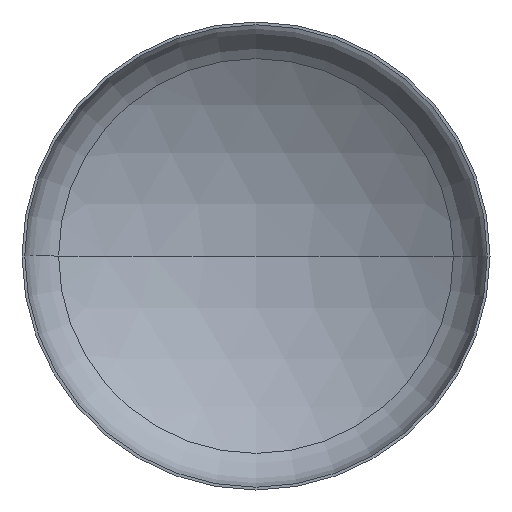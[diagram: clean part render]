
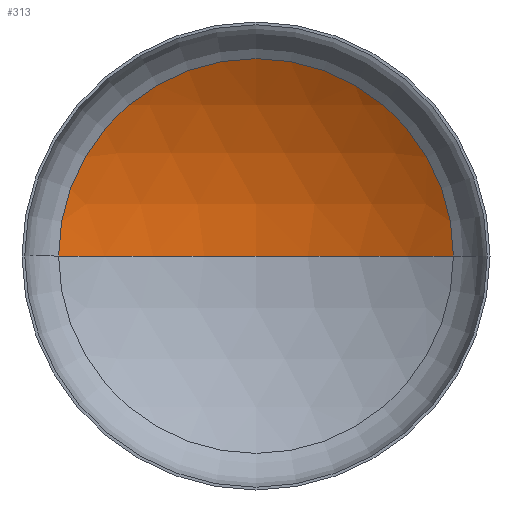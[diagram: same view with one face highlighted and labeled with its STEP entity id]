
A CAD part, front view. The second image highlights one B-rep face of the part: STEP entity #313.
In plain terms, the highlighted spherical face has radius 1360 mm.
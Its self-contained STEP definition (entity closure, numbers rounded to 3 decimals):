
#8 = AXIS2_PLACEMENT_3D ( 'NONE', #155, #406, #84 ) ;
#11 = AXIS2_PLACEMENT_3D ( 'NONE', #102, #35, #117 ) ;
#26 = ORIENTED_EDGE ( 'NONE', *, *, #384, .F. ) ;
#35 = DIRECTION ( 'NONE',  ( 0., 0., -1. ) ) ;
#59 = CIRCLE ( 'NONE', #382, 1360. ) ;
#78 = CARTESIAN_POINT ( 'NONE',  ( 0., 455.334, 0. ) ) ;
#84 = DIRECTION ( 'NONE',  ( 1., 0., 0. ) ) ;
#85 = ORIENTED_EDGE ( 'NONE', *, *, #333, .T. ) ;
#87 = DIRECTION ( 'NONE',  ( 1., 0., 0. ) ) ;
#102 = CARTESIAN_POINT ( 'NONE',  ( 0., -904.666, 0. ) ) ;
#117 = DIRECTION ( 'NONE',  ( -1., 0., 0. ) ) ;
#135 = CIRCLE ( 'NONE', #409, 1360. ) ;
#152 = CARTESIAN_POINT ( 'NONE',  ( 0., -904.666, 0. ) ) ;
#155 = CARTESIAN_POINT ( 'NONE',  ( 0., 250.921, 0. ) ) ;
#185 = CARTESIAN_POINT ( 'NONE',  ( 0., -904.666, 0. ) ) ;
#186 = DIRECTION ( 'NONE',  ( -1., 0., 0. ) ) ;
#240 = EDGE_LOOP ( 'NONE', ( #26, #278, #85 ) ) ;
#265 = VERTEX_POINT ( 'NONE', #402 ) ;
#278 = ORIENTED_EDGE ( 'NONE', *, *, #367, .T. ) ;
#310 = CIRCLE ( 'NONE', #8, 717.091 ) ;
#313 = ADVANCED_FACE ( 'NONE', ( #322 ), #391, .F. ) ;
#322 = FACE_OUTER_BOUND ( 'NONE', #240, .T. ) ;
#333 = EDGE_CURVE ( 'NONE', #265, #341, #310, .T. ) ;
#341 = VERTEX_POINT ( 'NONE', #378 ) ;
#351 = VERTEX_POINT ( 'NONE', #78 ) ;
#362 = DIRECTION ( 'NONE',  ( 0., 0., -1. ) ) ;
#367 = EDGE_CURVE ( 'NONE', #351, #265, #59, .T. ) ;
#378 = CARTESIAN_POINT ( 'NONE',  ( -717.091, 250.921, 0. ) ) ;
#382 = AXIS2_PLACEMENT_3D ( 'NONE', #152, #362, #186 ) ;
#384 = EDGE_CURVE ( 'NONE', #351, #341, #135, .T. ) ;
#387 = DIRECTION ( 'NONE',  ( 0., 0., 1. ) ) ;
#391 = SPHERICAL_SURFACE ( 'NONE', #11, 1360. ) ;
#402 = CARTESIAN_POINT ( 'NONE',  ( 717.091, 250.921, 0. ) ) ;
#406 = DIRECTION ( 'NONE',  ( 0., -1., 0. ) ) ;
#409 = AXIS2_PLACEMENT_3D ( 'NONE', #185, #387, #87 ) ;
